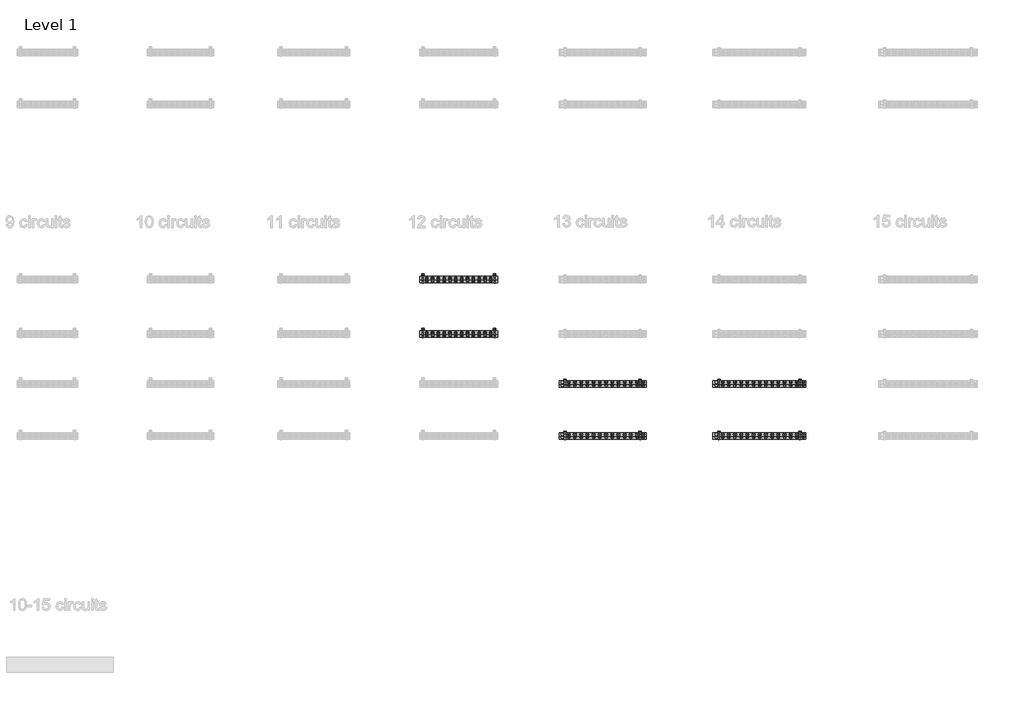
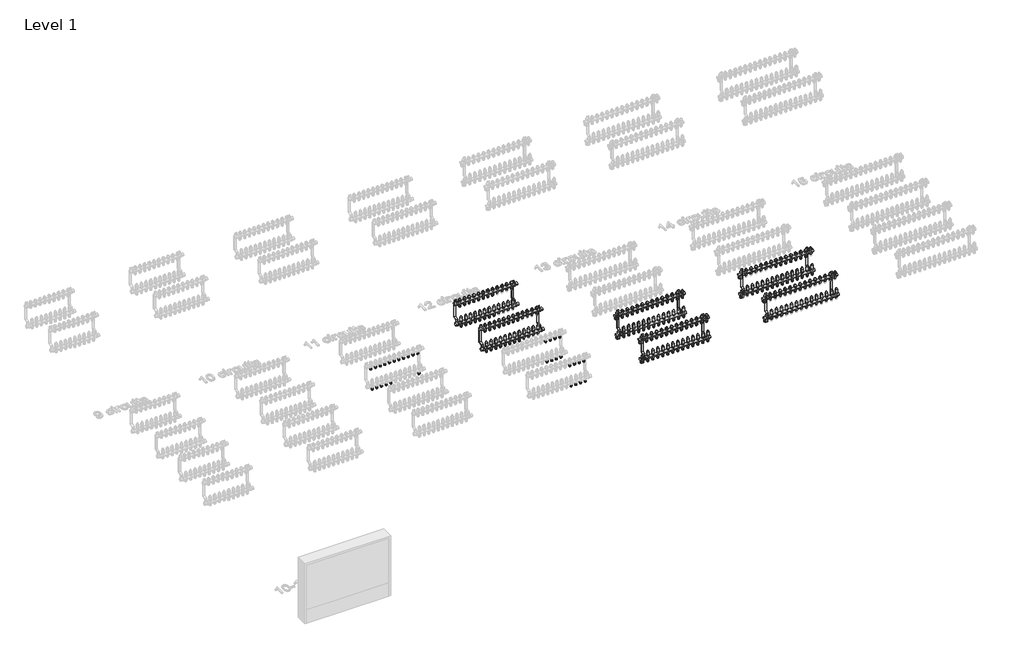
# One storey, part 5 of 23: 137 pipe fittings, 6 valves.
"""IFC4 building model written with IfcOpenShell, lengths in millimetres."""

from ifc_helpers import new_model, si_unit, origin, place, context, project, spatial, transform, mapped, element, save
from components import pipe_fitting_03c6499f, valve_28fdf4a6, valve_a7423dcf, valve_d379a65c, valve_24eee51e, valve_cb73cf64, valve_9b29a5eb, valve_b9f81a7f, valve_96d576d6, valve_5ad404c9, valve_4cbf1be7, valve_3248c627, valve_ecf45875

model = new_model("IFC4")

# Units and contexts
model_context = context("Model", 3, world=origin())
ifc_project = project(units=[si_unit("LENGTHUNIT", "METRE", prefix="MILLI")], contexts=[model_context])

# Site, building, storey
site = spatial("IfcSite", under=ifc_project)
building = spatial("IfcBuilding", under=site)
storey = spatial("IfcBuildingStorey", under=building, Name="Level 1", Elevation=0.0)

# Pipe fittings
placement = place(None, origin())
pipe_fitting_shape = pipe_fitting_03c6499f(model_context)
element("IfcPipeFitting", 1, ObjectType="Euroconus screwing for multilayer pipes - Manifold FT : Euroconus screwing for multilayer pipes - Manifold FT", at=placement, inside=storey, context=model_context, shape_type="MappedRepresentation", body=[
    mapped(pipe_fitting_shape, transform((11977.8887771, -1164.6959314, 62.88733), x_axis=(0.0, 0.0, -1.0), y_axis=(0.0, 1.0000000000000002, 0.0), z_axis=(1.0000000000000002, 0.0, 0.0))),
])
element("IfcPipeFitting", 2, ObjectType="Euroconus screwing for multilayer pipes - Manifold FT : Euroconus screwing for multilayer pipes - Manifold FT", at=placement, inside=storey, context=model_context, shape_type="MappedRepresentation", body=[
    mapped(pipe_fitting_shape, transform((11928.6160498, -1164.6959314, 62.88733), x_axis=(0.0, 0.0, -1.0), y_axis=(0.0, 1.0000000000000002, 0.0), z_axis=(1.0000000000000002, 0.0, 0.0))),
])
element("IfcPipeFitting", 3, ObjectType="Euroconus screwing for multilayer pipes - Manifold FT : Euroconus screwing for multilayer pipes - Manifold FT", at=placement, inside=storey, context=model_context, shape_type="MappedRepresentation", body=[
    mapped(pipe_fitting_shape, transform((11879.3433225, -1164.6959314, 62.88733), x_axis=(0.0, 0.0, -1.0), y_axis=(0.0, 1.0000000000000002, 0.0), z_axis=(1.0000000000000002, 0.0, 0.0))),
])
element("IfcPipeFitting", 4, ObjectType="Euroconus screwing for multilayer pipes - Manifold FT : Euroconus screwing for multilayer pipes - Manifold FT", at=placement, inside=storey, context=model_context, shape_type="MappedRepresentation", body=[
    mapped(pipe_fitting_shape, transform((11830.0705953, -1164.6959314, 62.88733), x_axis=(0.0, 0.0, -1.0), y_axis=(0.0, 1.0000000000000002, 0.0), z_axis=(1.0000000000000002, 0.0, 0.0))),
])
element("IfcPipeFitting", 5, ObjectType="Euroconus screwing for multilayer pipes - Manifold FT : Euroconus screwing for multilayer pipes - Manifold FT", at=placement, inside=storey, context=model_context, shape_type="MappedRepresentation", body=[
    mapped(pipe_fitting_shape, transform((11780.797868, -1164.6959314, 62.88733), x_axis=(0.0, 0.0, -1.0), y_axis=(0.0, 1.0000000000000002, 0.0), z_axis=(1.0000000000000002, 0.0, 0.0))),
])
element("IfcPipeFitting", 6, ObjectType="Euroconus screwing for multilayer pipes - Manifold FT : Euroconus screwing for multilayer pipes - Manifold FT", at=placement, inside=storey, context=model_context, shape_type="MappedRepresentation", body=[
    mapped(pipe_fitting_shape, transform((11731.5251407, -1164.6959314, 62.88733), x_axis=(0.0, 0.0, -1.0), y_axis=(0.0, 1.0000000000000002, 0.0), z_axis=(1.0000000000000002, 0.0, 0.0))),
])
element("IfcPipeFitting", 7, ObjectType="Euroconus screwing for multilayer pipes - Manifold FT : Euroconus screwing for multilayer pipes - Manifold FT", at=placement, inside=storey, context=model_context, shape_type="MappedRepresentation", body=[
    mapped(pipe_fitting_shape, transform((11682.2524134, -1164.6959314, 62.88733), x_axis=(0.0, 0.0, -1.0), y_axis=(0.0, 1.0000000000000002, 0.0), z_axis=(1.0000000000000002, 0.0, 0.0))),
])
element("IfcPipeFitting", 8, ObjectType="Euroconus screwing for multilayer pipes - Manifold FT : Euroconus screwing for multilayer pipes - Manifold FT", at=placement, inside=storey, context=model_context, shape_type="MappedRepresentation", body=[
    mapped(pipe_fitting_shape, transform((11977.8887771, -1139.6959314, 272.88733), x_axis=(0.0, 0.0, -1.0), y_axis=(0.0, 1.0000000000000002, 0.0), z_axis=(1.0000000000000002, 0.0, 0.0))),
])
element("IfcPipeFitting", 9, ObjectType="Euroconus screwing for multilayer pipes - Manifold FT : Euroconus screwing for multilayer pipes - Manifold FT", at=placement, inside=storey, context=model_context, shape_type="MappedRepresentation", body=[
    mapped(pipe_fitting_shape, transform((11928.6160498, -1139.6959314, 272.88733), x_axis=(0.0, 0.0, -1.0), y_axis=(0.0, 1.0000000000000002, 0.0), z_axis=(1.0000000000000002, 0.0, 0.0))),
])
element("IfcPipeFitting", 10, ObjectType="Euroconus screwing for multilayer pipes - Manifold FT : Euroconus screwing for multilayer pipes - Manifold FT", at=placement, inside=storey, context=model_context, shape_type="MappedRepresentation", body=[
    mapped(pipe_fitting_shape, transform((11879.3433225, -1139.6959314, 272.88733), x_axis=(0.0, 0.0, -1.0), y_axis=(0.0, 1.0000000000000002, 0.0), z_axis=(1.0000000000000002, 0.0, 0.0))),
])
element("IfcPipeFitting", 11, ObjectType="Euroconus screwing for multilayer pipes - Manifold FT : Euroconus screwing for multilayer pipes - Manifold FT", at=placement, inside=storey, context=model_context, shape_type="MappedRepresentation", body=[
    mapped(pipe_fitting_shape, transform((11830.0705953, -1139.6959314, 272.88733), x_axis=(0.0, 0.0, -1.0), y_axis=(0.0, 1.0000000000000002, 0.0), z_axis=(1.0000000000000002, 0.0, 0.0))),
])
element("IfcPipeFitting", 12, ObjectType="Euroconus screwing for multilayer pipes - Manifold FT : Euroconus screwing for multilayer pipes - Manifold FT", at=placement, inside=storey, context=model_context, shape_type="MappedRepresentation", body=[
    mapped(pipe_fitting_shape, transform((11780.797868, -1139.6959314, 272.88733), x_axis=(0.0, 0.0, -1.0), y_axis=(0.0, 1.0000000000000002, 0.0), z_axis=(1.0000000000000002, 0.0, 0.0))),
])
element("IfcPipeFitting", 13, ObjectType="Euroconus screwing for multilayer pipes - Manifold FT : Euroconus screwing for multilayer pipes - Manifold FT", at=placement, inside=storey, context=model_context, shape_type="MappedRepresentation", body=[
    mapped(pipe_fitting_shape, transform((11731.5251407, -1139.6959314, 272.88733), x_axis=(0.0, 0.0, -1.0), y_axis=(0.0, 1.0000000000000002, 0.0), z_axis=(1.0000000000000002, 0.0, 0.0))),
])
element("IfcPipeFitting", 14, ObjectType="Euroconus screwing for multilayer pipes - Manifold FT : Euroconus screwing for multilayer pipes - Manifold FT", at=placement, inside=storey, context=model_context, shape_type="MappedRepresentation", body=[
    mapped(pipe_fitting_shape, transform((11682.2524134, -1139.6959314, 272.88733), x_axis=(0.0, 0.0, -1.0), y_axis=(0.0, 1.0000000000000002, 0.0), z_axis=(1.0000000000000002, 0.0, 0.0))),
])
element("IfcPipeFitting", 15, ObjectType="Euroconus screwing for multilayer pipes - Manifold FT : Euroconus screwing for multilayer pipes - Manifold FT", at=placement, inside=storey, context=model_context, shape_type="MappedRepresentation", body=[
    mapped(pipe_fitting_shape, transform((11632.9796862, -1164.6959314, 62.88733), x_axis=(0.0, 0.0, -1.0), y_axis=(0.0, 1.0000000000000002, 0.0), z_axis=(1.0000000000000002, 0.0, 0.0))),
])
element("IfcPipeFitting", 16, ObjectType="Euroconus screwing for multilayer pipes - Manifold FT : Euroconus screwing for multilayer pipes - Manifold FT", at=placement, inside=storey, context=model_context, shape_type="MappedRepresentation", body=[
    mapped(pipe_fitting_shape, transform((11632.9796862, -1139.6959314, 272.88733), x_axis=(0.0, 0.0, -1.0), y_axis=(0.0, 1.0000000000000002, 0.0), z_axis=(1.0000000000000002, 0.0, 0.0))),
])
element("IfcPipeFitting", 17, ObjectType="Euroconus screwing for multilayer pipes - Manifold FT : Euroconus screwing for multilayer pipes - Manifold FT", at=placement, inside=storey, context=model_context, shape_type="MappedRepresentation", body=[
    mapped(pipe_fitting_shape, transform((10629.7796862, -1624.6959314, 62.88733), x_axis=(0.0, 0.0, -1.0), y_axis=(0.0, 1.0000000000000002, 0.0), z_axis=(1.0000000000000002, 0.0, 0.0))),
])
element("IfcPipeFitting", 18, ObjectType="Euroconus screwing for multilayer pipes - Manifold FT : Euroconus screwing for multilayer pipes - Manifold FT", at=placement, inside=storey, context=model_context, shape_type="MappedRepresentation", body=[
    mapped(pipe_fitting_shape, transform((10580.5796862, -1624.6959314, 62.88733), x_axis=(0.0, 0.0, -1.0), y_axis=(0.0, 1.0000000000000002, 0.0), z_axis=(1.0000000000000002, 0.0, 0.0))),
])
element("IfcPipeFitting", 19, ObjectType="Euroconus screwing for multilayer pipes - Manifold FT : Euroconus screwing for multilayer pipes - Manifold FT", at=placement, inside=storey, context=model_context, shape_type="MappedRepresentation", body=[
    mapped(pipe_fitting_shape, transform((10531.3796862, -1624.6959314, 62.88733), x_axis=(0.0, 0.0, -1.0), y_axis=(0.0, 1.0000000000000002, 0.0), z_axis=(1.0000000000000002, 0.0, 0.0))),
])
element("IfcPipeFitting", 20, ObjectType="Euroconus screwing for multilayer pipes - Manifold FT : Euroconus screwing for multilayer pipes - Manifold FT", at=placement, inside=storey, context=model_context, shape_type="MappedRepresentation", body=[
    mapped(pipe_fitting_shape, transform((10482.1796862, -1624.6959314, 62.88733), x_axis=(0.0, 0.0, -1.0), y_axis=(0.0, 1.0000000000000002, 0.0), z_axis=(1.0000000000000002, 0.0, 0.0))),
])
element("IfcPipeFitting", 21, ObjectType="Euroconus screwing for multilayer pipes - Manifold FT : Euroconus screwing for multilayer pipes - Manifold FT", at=placement, inside=storey, context=model_context, shape_type="MappedRepresentation", body=[
    mapped(pipe_fitting_shape, transform((10924.9796862, -1624.6959314, 62.88733), x_axis=(0.0, 0.0, -1.0), y_axis=(0.0, 1.0000000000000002, 0.0), z_axis=(1.0000000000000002, 0.0, 0.0))),
])
element("IfcPipeFitting", 22, ObjectType="Euroconus screwing for multilayer pipes - Manifold FT : Euroconus screwing for multilayer pipes - Manifold FT", at=placement, inside=storey, context=model_context, shape_type="MappedRepresentation", body=[
    mapped(pipe_fitting_shape, transform((10875.7796862, -1599.6959314, 272.88733), x_axis=(0.0, 0.0, -1.0), y_axis=(0.0, 1.0000000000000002, 0.0), z_axis=(1.0000000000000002, 0.0, 0.0))),
])
element("IfcPipeFitting", 23, ObjectType="Euroconus screwing for multilayer pipes - Manifold FT : Euroconus screwing for multilayer pipes - Manifold FT", at=placement, inside=storey, context=model_context, shape_type="MappedRepresentation", body=[
    mapped(pipe_fitting_shape, transform((10826.5796862, -1599.6959314, 272.88733), x_axis=(0.0, 0.0, -1.0), y_axis=(0.0, 1.0000000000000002, 0.0), z_axis=(1.0000000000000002, 0.0, 0.0))),
])
element("IfcPipeFitting", 24, ObjectType="Euroconus screwing for multilayer pipes - Manifold FT : Euroconus screwing for multilayer pipes - Manifold FT", at=placement, inside=storey, context=model_context, shape_type="MappedRepresentation", body=[
    mapped(pipe_fitting_shape, transform((10777.3796862, -1599.6959314, 272.88733), x_axis=(0.0, 0.0, -1.0), y_axis=(0.0, 1.0000000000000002, 0.0), z_axis=(1.0000000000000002, 0.0, 0.0))),
])
element("IfcPipeFitting", 25, ObjectType="Euroconus screwing for multilayer pipes - Manifold FT : Euroconus screwing for multilayer pipes - Manifold FT", at=placement, inside=storey, context=model_context, shape_type="MappedRepresentation", body=[
    mapped(pipe_fitting_shape, transform((10728.1796862, -1599.6959314, 272.88733), x_axis=(0.0, 0.0, -1.0), y_axis=(0.0, 1.0000000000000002, 0.0), z_axis=(1.0000000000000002, 0.0, 0.0))),
])
element("IfcPipeFitting", 26, ObjectType="Euroconus screwing for multilayer pipes - Manifold FT : Euroconus screwing for multilayer pipes - Manifold FT", at=placement, inside=storey, context=model_context, shape_type="MappedRepresentation", body=[
    mapped(pipe_fitting_shape, transform((10678.9796862, -1599.6959314, 272.88733), x_axis=(0.0, 0.0, -1.0), y_axis=(0.0, 1.0000000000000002, 0.0), z_axis=(1.0000000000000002, 0.0, 0.0))),
])
element("IfcPipeFitting", 27, ObjectType="Euroconus screwing for multilayer pipes - Manifold FT : Euroconus screwing for multilayer pipes - Manifold FT", at=placement, inside=storey, context=model_context, shape_type="MappedRepresentation", body=[
    mapped(pipe_fitting_shape, transform((10629.7796862, -1599.6959314, 272.88733), x_axis=(0.0, 0.0, -1.0), y_axis=(0.0, 1.0000000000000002, 0.0), z_axis=(1.0000000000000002, 0.0, 0.0))),
])
element("IfcPipeFitting", 28, ObjectType="Euroconus screwing for multilayer pipes - Manifold FT : Euroconus screwing for multilayer pipes - Manifold FT", at=placement, inside=storey, context=model_context, shape_type="MappedRepresentation", body=[
    mapped(pipe_fitting_shape, transform((10580.5796862, -1599.6959314, 272.88733), x_axis=(0.0, 0.0, -1.0), y_axis=(0.0, 1.0000000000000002, 0.0), z_axis=(1.0000000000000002, 0.0, 0.0))),
])
element("IfcPipeFitting", 29, ObjectType="Euroconus screwing for multilayer pipes - Manifold FT : Euroconus screwing for multilayer pipes - Manifold FT", at=placement, inside=storey, context=model_context, shape_type="MappedRepresentation", body=[
    mapped(pipe_fitting_shape, transform((10531.3796862, -1599.6959314, 272.88733), x_axis=(0.0, 0.0, -1.0), y_axis=(0.0, 1.0000000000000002, 0.0), z_axis=(1.0000000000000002, 0.0, 0.0))),
])
element("IfcPipeFitting", 30, ObjectType="Euroconus screwing for multilayer pipes - Manifold FT : Euroconus screwing for multilayer pipes - Manifold FT", at=placement, inside=storey, context=model_context, shape_type="MappedRepresentation", body=[
    mapped(pipe_fitting_shape, transform((10482.1796862, -1599.6959314, 272.88733), x_axis=(0.0, 0.0, -1.0), y_axis=(0.0, 1.0000000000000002, 0.0), z_axis=(1.0000000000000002, 0.0, 0.0))),
])
element("IfcPipeFitting", 31, ObjectType="Euroconus screwing for multilayer pipes - Manifold FT : Euroconus screwing for multilayer pipes - Manifold FT", at=placement, inside=storey, context=model_context, shape_type="MappedRepresentation", body=[
    mapped(pipe_fitting_shape, transform((10924.9796862, -1599.6959314, 272.88733), x_axis=(0.0, 0.0, -1.0), y_axis=(0.0, 1.0000000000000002, 0.0), z_axis=(1.0000000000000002, 0.0, 0.0))),
])
element("IfcPipeFitting", 32, ObjectType="Euroconus screwing for multilayer pipes - Manifold FT : Euroconus screwing for multilayer pipes - Manifold FT", at=placement, inside=storey, context=model_context, shape_type="MappedRepresentation", body=[
    mapped(pipe_fitting_shape, transform((10432.9796862, -1624.6959314, 62.88733), x_axis=(0.0, 0.0, -1.0), y_axis=(0.0, 1.0000000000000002, 0.0), z_axis=(1.0000000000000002, 0.0, 0.0))),
])
element("IfcPipeFitting", 33, ObjectType="Euroconus screwing for multilayer pipes - Manifold FT : Euroconus screwing for multilayer pipes - Manifold FT", at=placement, inside=storey, context=model_context, shape_type="MappedRepresentation", body=[
    mapped(pipe_fitting_shape, transform((10432.9796862, -1599.6959314, 272.88733), x_axis=(0.0, 0.0, -1.0), y_axis=(0.0, 1.0000000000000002, 0.0), z_axis=(1.0000000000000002, 0.0, 0.0))),
])
element("IfcPipeFitting", 34, ObjectType="Euroconus screwing for multilayer pipes - Manifold FT : Euroconus screwing for multilayer pipes - Manifold FT", at=placement, inside=storey, context=model_context, shape_type="MappedRepresentation", body=[
    mapped(pipe_fitting_shape, transform((11977.8887771, -1624.6959314, 62.88733), x_axis=(0.0, 0.0, -1.0), y_axis=(0.0, 1.0000000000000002, 0.0), z_axis=(1.0000000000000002, 0.0, 0.0))),
])
element("IfcPipeFitting", 35, ObjectType="Euroconus screwing for multilayer pipes - Manifold FT : Euroconus screwing for multilayer pipes - Manifold FT", at=placement, inside=storey, context=model_context, shape_type="MappedRepresentation", body=[
    mapped(pipe_fitting_shape, transform((11928.6160498, -1624.6959314, 62.88733), x_axis=(0.0, 0.0, -1.0), y_axis=(0.0, 1.0000000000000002, 0.0), z_axis=(1.0000000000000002, 0.0, 0.0))),
])
element("IfcPipeFitting", 36, ObjectType="Euroconus screwing for multilayer pipes - Manifold FT : Euroconus screwing for multilayer pipes - Manifold FT", at=placement, inside=storey, context=model_context, shape_type="MappedRepresentation", body=[
    mapped(pipe_fitting_shape, transform((11879.3433225, -1624.6959314, 62.88733), x_axis=(0.0, 0.0, -1.0), y_axis=(0.0, 1.0000000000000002, 0.0), z_axis=(1.0000000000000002, 0.0, 0.0))),
])
element("IfcPipeFitting", 37, ObjectType="Euroconus screwing for multilayer pipes - Manifold FT : Euroconus screwing for multilayer pipes - Manifold FT", at=placement, inside=storey, context=model_context, shape_type="MappedRepresentation", body=[
    mapped(pipe_fitting_shape, transform((11830.0705953, -1624.6959314, 62.88733), x_axis=(0.0, 0.0, -1.0), y_axis=(0.0, 1.0000000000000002, 0.0), z_axis=(1.0000000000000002, 0.0, 0.0))),
])
element("IfcPipeFitting", 38, ObjectType="Euroconus screwing for multilayer pipes - Manifold FT : Euroconus screwing for multilayer pipes - Manifold FT", at=placement, inside=storey, context=model_context, shape_type="MappedRepresentation", body=[
    mapped(pipe_fitting_shape, transform((11780.797868, -1624.6959314, 62.88733), x_axis=(0.0, 0.0, -1.0), y_axis=(0.0, 1.0000000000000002, 0.0), z_axis=(1.0000000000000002, 0.0, 0.0))),
])
element("IfcPipeFitting", 39, ObjectType="Euroconus screwing for multilayer pipes - Manifold FT : Euroconus screwing for multilayer pipes - Manifold FT", at=placement, inside=storey, context=model_context, shape_type="MappedRepresentation", body=[
    mapped(pipe_fitting_shape, transform((11731.5251407, -1624.6959314, 62.88733), x_axis=(0.0, 0.0, -1.0), y_axis=(0.0, 1.0000000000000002, 0.0), z_axis=(1.0000000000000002, 0.0, 0.0))),
])
element("IfcPipeFitting", 40, ObjectType="Euroconus screwing for multilayer pipes - Manifold FT : Euroconus screwing for multilayer pipes - Manifold FT", at=placement, inside=storey, context=model_context, shape_type="MappedRepresentation", body=[
    mapped(pipe_fitting_shape, transform((11682.2524134, -1624.6959314, 62.88733), x_axis=(0.0, 0.0, -1.0), y_axis=(0.0, 1.0000000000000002, 0.0), z_axis=(1.0000000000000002, 0.0, 0.0))),
])
element("IfcPipeFitting", 41, ObjectType="Euroconus screwing for multilayer pipes - Manifold FT : Euroconus screwing for multilayer pipes - Manifold FT", at=placement, inside=storey, context=model_context, shape_type="MappedRepresentation", body=[
    mapped(pipe_fitting_shape, transform((11977.8887771, -1599.6959314, 272.88733), x_axis=(0.0, 0.0, -1.0), y_axis=(0.0, 1.0000000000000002, 0.0), z_axis=(1.0000000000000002, 0.0, 0.0))),
])
element("IfcPipeFitting", 42, ObjectType="Euroconus screwing for multilayer pipes - Manifold FT : Euroconus screwing for multilayer pipes - Manifold FT", at=placement, inside=storey, context=model_context, shape_type="MappedRepresentation", body=[
    mapped(pipe_fitting_shape, transform((11928.6160498, -1599.6959314, 272.88733), x_axis=(0.0, 0.0, -1.0), y_axis=(0.0, 1.0000000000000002, 0.0), z_axis=(1.0000000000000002, 0.0, 0.0))),
])
element("IfcPipeFitting", 43, ObjectType="Euroconus screwing for multilayer pipes - Manifold FT : Euroconus screwing for multilayer pipes - Manifold FT", at=placement, inside=storey, context=model_context, shape_type="MappedRepresentation", body=[
    mapped(pipe_fitting_shape, transform((11879.3433225, -1599.6959314, 272.88733), x_axis=(0.0, 0.0, -1.0), y_axis=(0.0, 1.0000000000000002, 0.0), z_axis=(1.0000000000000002, 0.0, 0.0))),
])
element("IfcPipeFitting", 44, ObjectType="Euroconus screwing for multilayer pipes - Manifold FT : Euroconus screwing for multilayer pipes - Manifold FT", at=placement, inside=storey, context=model_context, shape_type="MappedRepresentation", body=[
    mapped(pipe_fitting_shape, transform((11830.0705953, -1599.6959314, 272.88733), x_axis=(0.0, 0.0, -1.0), y_axis=(0.0, 1.0000000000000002, 0.0), z_axis=(1.0000000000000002, 0.0, 0.0))),
])
element("IfcPipeFitting", 45, ObjectType="Euroconus screwing for multilayer pipes - Manifold FT : Euroconus screwing for multilayer pipes - Manifold FT", at=placement, inside=storey, context=model_context, shape_type="MappedRepresentation", body=[
    mapped(pipe_fitting_shape, transform((11780.797868, -1599.6959314, 272.88733), x_axis=(0.0, 0.0, -1.0), y_axis=(0.0, 1.0000000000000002, 0.0), z_axis=(1.0000000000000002, 0.0, 0.0))),
])
element("IfcPipeFitting", 46, ObjectType="Euroconus screwing for multilayer pipes - Manifold FT : Euroconus screwing for multilayer pipes - Manifold FT", at=placement, inside=storey, context=model_context, shape_type="MappedRepresentation", body=[
    mapped(pipe_fitting_shape, transform((11731.5251407, -1599.6959314, 272.88733), x_axis=(0.0, 0.0, -1.0), y_axis=(0.0, 1.0000000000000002, 0.0), z_axis=(1.0000000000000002, 0.0, 0.0))),
])
element("IfcPipeFitting", 47, ObjectType="Euroconus screwing for multilayer pipes - Manifold FT : Euroconus screwing for multilayer pipes - Manifold FT", at=placement, inside=storey, context=model_context, shape_type="MappedRepresentation", body=[
    mapped(pipe_fitting_shape, transform((11682.2524134, -1599.6959314, 272.88733), x_axis=(0.0, 0.0, -1.0), y_axis=(0.0, 1.0000000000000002, 0.0), z_axis=(1.0000000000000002, 0.0, 0.0))),
])
element("IfcPipeFitting", 48, ObjectType="Euroconus screwing for multilayer pipes - Manifold FT : Euroconus screwing for multilayer pipes - Manifold FT", at=placement, inside=storey, context=model_context, shape_type="MappedRepresentation", body=[
    mapped(pipe_fitting_shape, transform((11632.9796862, -1624.6959314, 62.88733), x_axis=(0.0, 0.0, -1.0), y_axis=(0.0, 1.0000000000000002, 0.0), z_axis=(1.0000000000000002, 0.0, 0.0))),
])
element("IfcPipeFitting", 49, ObjectType="Euroconus screwing for multilayer pipes - Manifold FT : Euroconus screwing for multilayer pipes - Manifold FT", at=placement, inside=storey, context=model_context, shape_type="MappedRepresentation", body=[
    mapped(pipe_fitting_shape, transform((11632.9796862, -1599.6959314, 272.88733), x_axis=(0.0, 0.0, -1.0), y_axis=(0.0, 1.0000000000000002, 0.0), z_axis=(1.0000000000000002, 0.0, 0.0))),
])
element("IfcPipeFitting", 50, ObjectType="Euroconus screwing for multilayer pipes - Manifold FT : Euroconus screwing for multilayer pipes - Manifold FT", at=placement, inside=storey, context=model_context, shape_type="MappedRepresentation", body=[
    mapped(pipe_fitting_shape, transform((12125.7069589, -2044.6959314, 62.88733), x_axis=(0.0, 0.0, -1.0), y_axis=(0.0, 1.0000000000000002, 0.0), z_axis=(1.0000000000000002, 0.0, 0.0))),
])
element("IfcPipeFitting", 51, ObjectType="Euroconus screwing for multilayer pipes - Manifold FT : Euroconus screwing for multilayer pipes - Manifold FT", at=placement, inside=storey, context=model_context, shape_type="MappedRepresentation", body=[
    mapped(pipe_fitting_shape, transform((12076.4342316, -2044.6959314, 62.88733), x_axis=(0.0, 0.0, -1.0), y_axis=(0.0, 1.0000000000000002, 0.0), z_axis=(1.0000000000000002, 0.0, 0.0))),
])
element("IfcPipeFitting", 52, ObjectType="Euroconus screwing for multilayer pipes - Manifold FT : Euroconus screwing for multilayer pipes - Manifold FT", at=placement, inside=storey, context=model_context, shape_type="MappedRepresentation", body=[
    mapped(pipe_fitting_shape, transform((12027.1615043, -2044.6959314, 62.88733), x_axis=(0.0, 0.0, -1.0), y_axis=(0.0, 1.0000000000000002, 0.0), z_axis=(1.0000000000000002, 0.0, 0.0))),
])
element("IfcPipeFitting", 53, ObjectType="Euroconus screwing for multilayer pipes - Manifold FT : Euroconus screwing for multilayer pipes - Manifold FT", at=placement, inside=storey, context=model_context, shape_type="MappedRepresentation", body=[
    mapped(pipe_fitting_shape, transform((12174.9796862, -2044.6959314, 62.88733), x_axis=(0.0, 0.0, -1.0), y_axis=(0.0, 1.0000000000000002, 0.0), z_axis=(1.0000000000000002, 0.0, 0.0))),
])
element("IfcPipeFitting", 54, ObjectType="Euroconus screwing for multilayer pipes - Manifold FT : Euroconus screwing for multilayer pipes - Manifold FT", at=placement, inside=storey, context=model_context, shape_type="MappedRepresentation", body=[
    mapped(pipe_fitting_shape, transform((12125.7069589, -2019.6959314, 272.88733), x_axis=(0.0, 0.0, -1.0), y_axis=(0.0, 1.0000000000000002, 0.0), z_axis=(1.0000000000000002, 0.0, 0.0))),
])
element("IfcPipeFitting", 55, ObjectType="Euroconus screwing for multilayer pipes - Manifold FT : Euroconus screwing for multilayer pipes - Manifold FT", at=placement, inside=storey, context=model_context, shape_type="MappedRepresentation", body=[
    mapped(pipe_fitting_shape, transform((12076.4342316, -2019.6959314, 272.88733), x_axis=(0.0, 0.0, -1.0), y_axis=(0.0, 1.0000000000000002, 0.0), z_axis=(1.0000000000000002, 0.0, 0.0))),
])
element("IfcPipeFitting", 56, ObjectType="Euroconus screwing for multilayer pipes - Manifold FT : Euroconus screwing for multilayer pipes - Manifold FT", at=placement, inside=storey, context=model_context, shape_type="MappedRepresentation", body=[
    mapped(pipe_fitting_shape, transform((12027.1615043, -2019.6959314, 272.88733), x_axis=(0.0, 0.0, -1.0), y_axis=(0.0, 1.0000000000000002, 0.0), z_axis=(1.0000000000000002, 0.0, 0.0))),
])
element("IfcPipeFitting", 57, ObjectType="Euroconus screwing for multilayer pipes - Manifold FT : Euroconus screwing for multilayer pipes - Manifold FT", at=placement, inside=storey, context=model_context, shape_type="MappedRepresentation", body=[
    mapped(pipe_fitting_shape, transform((12174.9796862, -2019.6959314, 272.88733), x_axis=(0.0, 0.0, -1.0), y_axis=(0.0, 1.0000000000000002, 0.0), z_axis=(1.0000000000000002, 0.0, 0.0))),
])
element("IfcPipeFitting", 58, ObjectType="Euroconus screwing for multilayer pipes - Manifold FT : Euroconus screwing for multilayer pipes - Manifold FT", at=placement, inside=storey, context=model_context, shape_type="MappedRepresentation", body=[
    mapped(pipe_fitting_shape, transform((13410.4796862, -2044.6959314, 62.88733), x_axis=(0.0, 0.0, -1.0), y_axis=(0.0, 1.0000000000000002, 0.0), z_axis=(1.0000000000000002, 0.0, 0.0))),
])
element("IfcPipeFitting", 59, ObjectType="Euroconus screwing for multilayer pipes - Manifold FT : Euroconus screwing for multilayer pipes - Manifold FT", at=placement, inside=storey, context=model_context, shape_type="MappedRepresentation", body=[
    mapped(pipe_fitting_shape, transform((13357.9796862, -2044.6959314, 62.88733), x_axis=(0.0, 0.0, -1.0), y_axis=(0.0, 1.0000000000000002, 0.0), z_axis=(1.0000000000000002, 0.0, 0.0))),
])
element("IfcPipeFitting", 60, ObjectType="Euroconus screwing for multilayer pipes - Manifold FT : Euroconus screwing for multilayer pipes - Manifold FT", at=placement, inside=storey, context=model_context, shape_type="MappedRepresentation", body=[
    mapped(pipe_fitting_shape, transform((13305.4796862, -2044.6959314, 62.88733), x_axis=(0.0, 0.0, -1.0), y_axis=(0.0, 1.0000000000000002, 0.0), z_axis=(1.0000000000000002, 0.0, 0.0))),
])
element("IfcPipeFitting", 61, ObjectType="Euroconus screwing for multilayer pipes - Manifold FT : Euroconus screwing for multilayer pipes - Manifold FT", at=placement, inside=storey, context=model_context, shape_type="MappedRepresentation", body=[
    mapped(pipe_fitting_shape, transform((13252.9796862, -2044.6959314, 62.88733), x_axis=(0.0, 0.0, -1.0), y_axis=(0.0, 1.0000000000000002, 0.0), z_axis=(1.0000000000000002, 0.0, 0.0))),
])
element("IfcPipeFitting", 62, ObjectType="Euroconus screwing for multilayer pipes - Manifold FT : Euroconus screwing for multilayer pipes - Manifold FT", at=placement, inside=storey, context=model_context, shape_type="MappedRepresentation", body=[
    mapped(pipe_fitting_shape, transform((13200.4796862, -2044.6959314, 62.88733), x_axis=(0.0, 0.0, -1.0), y_axis=(0.0, 1.0000000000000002, 0.0), z_axis=(1.0000000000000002, 0.0, 0.0))),
])
element("IfcPipeFitting", 63, ObjectType="Euroconus screwing for multilayer pipes - Manifold FT : Euroconus screwing for multilayer pipes - Manifold FT", at=placement, inside=storey, context=model_context, shape_type="MappedRepresentation", body=[
    mapped(pipe_fitting_shape, transform((13147.9796862, -2044.6959314, 62.88733), x_axis=(0.0, 0.0, -1.0), y_axis=(0.0, 1.0000000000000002, 0.0), z_axis=(1.0000000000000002, 0.0, 0.0))),
])
element("IfcPipeFitting", 64, ObjectType="Euroconus screwing for multilayer pipes - Manifold FT : Euroconus screwing for multilayer pipes - Manifold FT", at=placement, inside=storey, context=model_context, shape_type="MappedRepresentation", body=[
    mapped(pipe_fitting_shape, transform((13095.4796862, -2044.6959314, 62.88733), x_axis=(0.0, 0.0, -1.0), y_axis=(0.0, 1.0000000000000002, 0.0), z_axis=(1.0000000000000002, 0.0, 0.0))),
])
element("IfcPipeFitting", 65, ObjectType="Euroconus screwing for multilayer pipes - Manifold FT : Euroconus screwing for multilayer pipes - Manifold FT", at=placement, inside=storey, context=model_context, shape_type="MappedRepresentation", body=[
    mapped(pipe_fitting_shape, transform((13042.9796862, -2044.6959314, 62.88733), x_axis=(0.0, 0.0, -1.0), y_axis=(0.0, 1.0000000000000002, 0.0), z_axis=(1.0000000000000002, 0.0, 0.0))),
])
element("IfcPipeFitting", 66, ObjectType="Euroconus screwing for multilayer pipes - Manifold FT : Euroconus screwing for multilayer pipes - Manifold FT", at=placement, inside=storey, context=model_context, shape_type="MappedRepresentation", body=[
    mapped(pipe_fitting_shape, transform((12990.4796862, -2044.6959314, 62.88733), x_axis=(0.0, 0.0, -1.0), y_axis=(0.0, 1.0000000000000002, 0.0), z_axis=(1.0000000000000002, 0.0, 0.0))),
])
element("IfcPipeFitting", 67, ObjectType="Euroconus screwing for multilayer pipes - Manifold FT : Euroconus screwing for multilayer pipes - Manifold FT", at=placement, inside=storey, context=model_context, shape_type="MappedRepresentation", body=[
    mapped(pipe_fitting_shape, transform((12937.9796862, -2044.6959314, 62.88733), x_axis=(0.0, 0.0, -1.0), y_axis=(0.0, 1.0000000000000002, 0.0), z_axis=(1.0000000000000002, 0.0, 0.0))),
])
element("IfcPipeFitting", 68, ObjectType="Euroconus screwing for multilayer pipes - Manifold FT : Euroconus screwing for multilayer pipes - Manifold FT", at=placement, inside=storey, context=model_context, shape_type="MappedRepresentation", body=[
    mapped(pipe_fitting_shape, transform((12885.4796862, -2044.6959314, 62.88733), x_axis=(0.0, 0.0, -1.0), y_axis=(0.0, 1.0000000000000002, 0.0), z_axis=(1.0000000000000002, 0.0, 0.0))),
])
element("IfcPipeFitting", 69, ObjectType="Euroconus screwing for multilayer pipes - Manifold FT : Euroconus screwing for multilayer pipes - Manifold FT", at=placement, inside=storey, context=model_context, shape_type="MappedRepresentation", body=[
    mapped(pipe_fitting_shape, transform((13462.9796862, -2044.6959314, 62.88733), x_axis=(0.0, 0.0, -1.0), y_axis=(0.0, 1.0000000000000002, 0.0), z_axis=(1.0000000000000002, 0.0, 0.0))),
])
element("IfcPipeFitting", 70, ObjectType="Euroconus screwing for multilayer pipes - Manifold FT : Euroconus screwing for multilayer pipes - Manifold FT", at=placement, inside=storey, context=model_context, shape_type="MappedRepresentation", body=[
    mapped(pipe_fitting_shape, transform((13410.4796862, -2019.6959314, 262.88733), x_axis=(0.0, 0.0, -1.0), y_axis=(0.0, 1.0000000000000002, 0.0), z_axis=(1.0000000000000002, 0.0, 0.0))),
])
element("IfcPipeFitting", 71, ObjectType="Euroconus screwing for multilayer pipes - Manifold FT : Euroconus screwing for multilayer pipes - Manifold FT", at=placement, inside=storey, context=model_context, shape_type="MappedRepresentation", body=[
    mapped(pipe_fitting_shape, transform((13357.9796862, -2019.6959314, 262.88733), x_axis=(0.0, 0.0, -1.0), y_axis=(0.0, 1.0000000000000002, 0.0), z_axis=(1.0000000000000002, 0.0, 0.0))),
])
element("IfcPipeFitting", 72, ObjectType="Euroconus screwing for multilayer pipes - Manifold FT : Euroconus screwing for multilayer pipes - Manifold FT", at=placement, inside=storey, context=model_context, shape_type="MappedRepresentation", body=[
    mapped(pipe_fitting_shape, transform((13305.4796862, -2019.6959314, 262.88733), x_axis=(0.0, 0.0, -1.0), y_axis=(0.0, 1.0000000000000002, 0.0), z_axis=(1.0000000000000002, 0.0, 0.0))),
])
element("IfcPipeFitting", 73, ObjectType="Euroconus screwing for multilayer pipes - Manifold FT : Euroconus screwing for multilayer pipes - Manifold FT", at=placement, inside=storey, context=model_context, shape_type="MappedRepresentation", body=[
    mapped(pipe_fitting_shape, transform((13252.9796862, -2019.6959314, 262.88733), x_axis=(0.0, 0.0, -1.0), y_axis=(0.0, 1.0000000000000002, 0.0), z_axis=(1.0000000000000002, 0.0, 0.0))),
])
element("IfcPipeFitting", 74, ObjectType="Euroconus screwing for multilayer pipes - Manifold FT : Euroconus screwing for multilayer pipes - Manifold FT", at=placement, inside=storey, context=model_context, shape_type="MappedRepresentation", body=[
    mapped(pipe_fitting_shape, transform((13200.4796862, -2019.6959314, 262.88733), x_axis=(0.0, 0.0, -1.0), y_axis=(0.0, 1.0000000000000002, 0.0), z_axis=(1.0000000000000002, 0.0, 0.0))),
])
element("IfcPipeFitting", 75, ObjectType="Euroconus screwing for multilayer pipes - Manifold FT : Euroconus screwing for multilayer pipes - Manifold FT", at=placement, inside=storey, context=model_context, shape_type="MappedRepresentation", body=[
    mapped(pipe_fitting_shape, transform((13147.9796862, -2019.6959314, 262.88733), x_axis=(0.0, 0.0, -1.0), y_axis=(0.0, 1.0000000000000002, 0.0), z_axis=(1.0000000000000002, 0.0, 0.0))),
])
element("IfcPipeFitting", 76, ObjectType="Euroconus screwing for multilayer pipes - Manifold FT : Euroconus screwing for multilayer pipes - Manifold FT", at=placement, inside=storey, context=model_context, shape_type="MappedRepresentation", body=[
    mapped(pipe_fitting_shape, transform((13095.4796862, -2019.6959314, 262.88733), x_axis=(0.0, 0.0, -1.0), y_axis=(0.0, 1.0000000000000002, 0.0), z_axis=(1.0000000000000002, 0.0, 0.0))),
])
element("IfcPipeFitting", 77, ObjectType="Euroconus screwing for multilayer pipes - Manifold FT : Euroconus screwing for multilayer pipes - Manifold FT", at=placement, inside=storey, context=model_context, shape_type="MappedRepresentation", body=[
    mapped(pipe_fitting_shape, transform((13042.9796862, -2019.6959314, 262.88733), x_axis=(0.0, 0.0, -1.0), y_axis=(0.0, 1.0000000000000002, 0.0), z_axis=(1.0000000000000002, 0.0, 0.0))),
])
element("IfcPipeFitting", 78, ObjectType="Euroconus screwing for multilayer pipes - Manifold FT : Euroconus screwing for multilayer pipes - Manifold FT", at=placement, inside=storey, context=model_context, shape_type="MappedRepresentation", body=[
    mapped(pipe_fitting_shape, transform((12990.4796862, -2019.6959314, 262.88733), x_axis=(0.0, 0.0, -1.0), y_axis=(0.0, 1.0000000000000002, 0.0), z_axis=(1.0000000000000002, 0.0, 0.0))),
])
element("IfcPipeFitting", 79, ObjectType="Euroconus screwing for multilayer pipes - Manifold FT : Euroconus screwing for multilayer pipes - Manifold FT", at=placement, inside=storey, context=model_context, shape_type="MappedRepresentation", body=[
    mapped(pipe_fitting_shape, transform((12937.9796862, -2019.6959314, 262.88733), x_axis=(0.0, 0.0, -1.0), y_axis=(0.0, 1.0000000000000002, 0.0), z_axis=(1.0000000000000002, 0.0, 0.0))),
])
element("IfcPipeFitting", 80, ObjectType="Euroconus screwing for multilayer pipes - Manifold FT : Euroconus screwing for multilayer pipes - Manifold FT", at=placement, inside=storey, context=model_context, shape_type="MappedRepresentation", body=[
    mapped(pipe_fitting_shape, transform((12885.4796862, -2019.6959314, 262.88733), x_axis=(0.0, 0.0, -1.0), y_axis=(0.0, 1.0000000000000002, 0.0), z_axis=(1.0000000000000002, 0.0, 0.0))),
])
element("IfcPipeFitting", 81, ObjectType="Euroconus screwing for multilayer pipes - Manifold FT : Euroconus screwing for multilayer pipes - Manifold FT", at=placement, inside=storey, context=model_context, shape_type="MappedRepresentation", body=[
    mapped(pipe_fitting_shape, transform((13462.9796862, -2019.6959314, 262.88733), x_axis=(0.0, 0.0, -1.0), y_axis=(0.0, 1.0000000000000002, 0.0), z_axis=(1.0000000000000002, 0.0, 0.0))),
])
element("IfcPipeFitting", 82, ObjectType="Euroconus screwing for multilayer pipes - Manifold FT : Euroconus screwing for multilayer pipes - Manifold FT", at=placement, inside=storey, context=model_context, shape_type="MappedRepresentation", body=[
    mapped(pipe_fitting_shape, transform((12832.9796862, -2044.6959314, 62.88733), x_axis=(0.0, 0.0, -1.0), y_axis=(0.0, 1.0000000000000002, 0.0), z_axis=(1.0000000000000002, 0.0, 0.0))),
])
element("IfcPipeFitting", 83, ObjectType="Euroconus screwing for multilayer pipes - Manifold FT : Euroconus screwing for multilayer pipes - Manifold FT", at=placement, inside=storey, context=model_context, shape_type="MappedRepresentation", body=[
    mapped(pipe_fitting_shape, transform((12832.9796862, -2019.6959314, 262.88733), x_axis=(0.0, 0.0, -1.0), y_axis=(0.0, 1.0000000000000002, 0.0), z_axis=(1.0000000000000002, 0.0, 0.0))),
])
element("IfcPipeFitting", 84, ObjectType="Euroconus screwing for multilayer pipes - Manifold FT : Euroconus screwing for multilayer pipes - Manifold FT", at=placement, inside=storey, context=model_context, shape_type="MappedRepresentation", body=[
    mapped(pipe_fitting_shape, transform((14760.6719939, -2044.6959314, 62.88733), x_axis=(0.0, 0.0, -1.0), y_axis=(0.0, 1.0000000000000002, 0.0), z_axis=(1.0000000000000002, 0.0, 0.0))),
])
element("IfcPipeFitting", 85, ObjectType="Euroconus screwing for multilayer pipes - Manifold FT : Euroconus screwing for multilayer pipes - Manifold FT", at=placement, inside=storey, context=model_context, shape_type="MappedRepresentation", body=[
    mapped(pipe_fitting_shape, transform((14708.3643015, -2044.6959314, 62.88733), x_axis=(0.0, 0.0, -1.0), y_axis=(0.0, 1.0000000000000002, 0.0), z_axis=(1.0000000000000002, 0.0, 0.0))),
])
element("IfcPipeFitting", 86, ObjectType="Euroconus screwing for multilayer pipes - Manifold FT : Euroconus screwing for multilayer pipes - Manifold FT", at=placement, inside=storey, context=model_context, shape_type="MappedRepresentation", body=[
    mapped(pipe_fitting_shape, transform((14656.0566092, -2044.6959314, 62.88733), x_axis=(0.0, 0.0, -1.0), y_axis=(0.0, 1.0000000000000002, 0.0), z_axis=(1.0000000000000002, 0.0, 0.0))),
])
element("IfcPipeFitting", 87, ObjectType="Euroconus screwing for multilayer pipes - Manifold FT : Euroconus screwing for multilayer pipes - Manifold FT", at=placement, inside=storey, context=model_context, shape_type="MappedRepresentation", body=[
    mapped(pipe_fitting_shape, transform((14603.7489169, -2044.6959314, 62.88733), x_axis=(0.0, 0.0, -1.0), y_axis=(0.0, 1.0000000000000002, 0.0), z_axis=(1.0000000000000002, 0.0, 0.0))),
])
element("IfcPipeFitting", 88, ObjectType="Euroconus screwing for multilayer pipes - Manifold FT : Euroconus screwing for multilayer pipes - Manifold FT", at=placement, inside=storey, context=model_context, shape_type="MappedRepresentation", body=[
    mapped(pipe_fitting_shape, transform((14551.4412246, -2044.6959314, 62.88733), x_axis=(0.0, 0.0, -1.0), y_axis=(0.0, 1.0000000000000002, 0.0), z_axis=(1.0000000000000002, 0.0, 0.0))),
])
element("IfcPipeFitting", 89, ObjectType="Euroconus screwing for multilayer pipes - Manifold FT : Euroconus screwing for multilayer pipes - Manifold FT", at=placement, inside=storey, context=model_context, shape_type="MappedRepresentation", body=[
    mapped(pipe_fitting_shape, transform((14499.1335323, -2044.6959314, 62.88733), x_axis=(0.0, 0.0, -1.0), y_axis=(0.0, 1.0000000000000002, 0.0), z_axis=(1.0000000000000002, 0.0, 0.0))),
])
element("IfcPipeFitting", 90, ObjectType="Euroconus screwing for multilayer pipes - Manifold FT : Euroconus screwing for multilayer pipes - Manifold FT", at=placement, inside=storey, context=model_context, shape_type="MappedRepresentation", body=[
    mapped(pipe_fitting_shape, transform((14446.82584, -2044.6959314, 62.88733), x_axis=(0.0, 0.0, -1.0), y_axis=(0.0, 1.0000000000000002, 0.0), z_axis=(1.0000000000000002, 0.0, 0.0))),
])
element("IfcPipeFitting", 91, ObjectType="Euroconus screwing for multilayer pipes - Manifold FT : Euroconus screwing for multilayer pipes - Manifold FT", at=placement, inside=storey, context=model_context, shape_type="MappedRepresentation", body=[
    mapped(pipe_fitting_shape, transform((14394.5181477, -2044.6959314, 62.88733), x_axis=(0.0, 0.0, -1.0), y_axis=(0.0, 1.0000000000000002, 0.0), z_axis=(1.0000000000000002, 0.0, 0.0))),
])
element("IfcPipeFitting", 92, ObjectType="Euroconus screwing for multilayer pipes - Manifold FT : Euroconus screwing for multilayer pipes - Manifold FT", at=placement, inside=storey, context=model_context, shape_type="MappedRepresentation", body=[
    mapped(pipe_fitting_shape, transform((14342.2104554, -2044.6959314, 62.88733), x_axis=(0.0, 0.0, -1.0), y_axis=(0.0, 1.0000000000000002, 0.0), z_axis=(1.0000000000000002, 0.0, 0.0))),
])
element("IfcPipeFitting", 93, ObjectType="Euroconus screwing for multilayer pipes - Manifold FT : Euroconus screwing for multilayer pipes - Manifold FT", at=placement, inside=storey, context=model_context, shape_type="MappedRepresentation", body=[
    mapped(pipe_fitting_shape, transform((14289.9027631, -2044.6959314, 62.88733), x_axis=(0.0, 0.0, -1.0), y_axis=(0.0, 1.0000000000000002, 0.0), z_axis=(1.0000000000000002, 0.0, 0.0))),
])
element("IfcPipeFitting", 94, ObjectType="Euroconus screwing for multilayer pipes - Manifold FT : Euroconus screwing for multilayer pipes - Manifold FT", at=placement, inside=storey, context=model_context, shape_type="MappedRepresentation", body=[
    mapped(pipe_fitting_shape, transform((14237.5950708, -2044.6959314, 62.88733), x_axis=(0.0, 0.0, -1.0), y_axis=(0.0, 1.0000000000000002, 0.0), z_axis=(1.0000000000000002, 0.0, 0.0))),
])
element("IfcPipeFitting", 95, ObjectType="Euroconus screwing for multilayer pipes - Manifold FT : Euroconus screwing for multilayer pipes - Manifold FT", at=placement, inside=storey, context=model_context, shape_type="MappedRepresentation", body=[
    mapped(pipe_fitting_shape, transform((14185.2873785, -2044.6959314, 62.88733), x_axis=(0.0, 0.0, -1.0), y_axis=(0.0, 1.0000000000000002, 0.0), z_axis=(1.0000000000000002, 0.0, 0.0))),
])
element("IfcPipeFitting", 96, ObjectType="Euroconus screwing for multilayer pipes - Manifold FT : Euroconus screwing for multilayer pipes - Manifold FT", at=placement, inside=storey, context=model_context, shape_type="MappedRepresentation", body=[
    mapped(pipe_fitting_shape, transform((14812.9796862, -2044.6959314, 62.88733), x_axis=(0.0, 0.0, -1.0), y_axis=(0.0, 1.0000000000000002, 0.0), z_axis=(1.0000000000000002, 0.0, 0.0))),
])
element("IfcPipeFitting", 97, ObjectType="Euroconus screwing for multilayer pipes - Manifold FT : Euroconus screwing for multilayer pipes - Manifold FT", at=placement, inside=storey, context=model_context, shape_type="MappedRepresentation", body=[
    mapped(pipe_fitting_shape, transform((14760.6719939, -2019.6959314, 262.88733), x_axis=(0.0, 0.0, -1.0), y_axis=(0.0, 1.0000000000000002, 0.0), z_axis=(1.0000000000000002, 0.0, 0.0))),
])
element("IfcPipeFitting", 98, ObjectType="Euroconus screwing for multilayer pipes - Manifold FT : Euroconus screwing for multilayer pipes - Manifold FT", at=placement, inside=storey, context=model_context, shape_type="MappedRepresentation", body=[
    mapped(pipe_fitting_shape, transform((14708.3643015, -2019.6959314, 262.88733), x_axis=(0.0, 0.0, -1.0), y_axis=(0.0, 1.0000000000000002, 0.0), z_axis=(1.0000000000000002, 0.0, 0.0))),
])
element("IfcPipeFitting", 99, ObjectType="Euroconus screwing for multilayer pipes - Manifold FT : Euroconus screwing for multilayer pipes - Manifold FT", at=placement, inside=storey, context=model_context, shape_type="MappedRepresentation", body=[
    mapped(pipe_fitting_shape, transform((14656.0566092, -2019.6959314, 262.88733), x_axis=(0.0, 0.0, -1.0), y_axis=(0.0, 1.0000000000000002, 0.0), z_axis=(1.0000000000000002, 0.0, 0.0))),
])
element("IfcPipeFitting", 100, ObjectType="Euroconus screwing for multilayer pipes - Manifold FT : Euroconus screwing for multilayer pipes - Manifold FT", at=placement, inside=storey, context=model_context, shape_type="MappedRepresentation", body=[
    mapped(pipe_fitting_shape, transform((14603.7489169, -2019.6959314, 262.88733), x_axis=(0.0, 0.0, -1.0), y_axis=(0.0, 1.0000000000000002, 0.0), z_axis=(1.0000000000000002, 0.0, 0.0))),
])
element("IfcPipeFitting", 101, ObjectType="Euroconus screwing for multilayer pipes - Manifold FT : Euroconus screwing for multilayer pipes - Manifold FT", at=placement, inside=storey, context=model_context, shape_type="MappedRepresentation", body=[
    mapped(pipe_fitting_shape, transform((14551.4412246, -2019.6959314, 262.88733), x_axis=(0.0, 0.0, -1.0), y_axis=(0.0, 1.0000000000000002, 0.0), z_axis=(1.0000000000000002, 0.0, 0.0))),
])
element("IfcPipeFitting", 102, ObjectType="Euroconus screwing for multilayer pipes - Manifold FT : Euroconus screwing for multilayer pipes - Manifold FT", at=placement, inside=storey, context=model_context, shape_type="MappedRepresentation", body=[
    mapped(pipe_fitting_shape, transform((14499.1335323, -2019.6959314, 262.88733), x_axis=(0.0, 0.0, -1.0), y_axis=(0.0, 1.0000000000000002, 0.0), z_axis=(1.0000000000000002, 0.0, 0.0))),
])
element("IfcPipeFitting", 103, ObjectType="Euroconus screwing for multilayer pipes - Manifold FT : Euroconus screwing for multilayer pipes - Manifold FT", at=placement, inside=storey, context=model_context, shape_type="MappedRepresentation", body=[
    mapped(pipe_fitting_shape, transform((14446.82584, -2019.6959314, 262.88733), x_axis=(0.0, 0.0, -1.0), y_axis=(0.0, 1.0000000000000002, 0.0), z_axis=(1.0000000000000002, 0.0, 0.0))),
])
element("IfcPipeFitting", 104, ObjectType="Euroconus screwing for multilayer pipes - Manifold FT : Euroconus screwing for multilayer pipes - Manifold FT", at=placement, inside=storey, context=model_context, shape_type="MappedRepresentation", body=[
    mapped(pipe_fitting_shape, transform((12125.7069589, -2484.6959314, 62.88733), x_axis=(0.0, 0.0, -1.0), y_axis=(0.0, 1.0000000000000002, 0.0), z_axis=(1.0000000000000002, 0.0, 0.0))),
])
element("IfcPipeFitting", 105, ObjectType="Euroconus screwing for multilayer pipes - Manifold FT : Euroconus screwing for multilayer pipes - Manifold FT", at=placement, inside=storey, context=model_context, shape_type="MappedRepresentation", body=[
    mapped(pipe_fitting_shape, transform((12076.4342316, -2484.6959314, 62.88733), x_axis=(0.0, 0.0, -1.0), y_axis=(0.0, 1.0000000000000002, 0.0), z_axis=(1.0000000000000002, 0.0, 0.0))),
])
element("IfcPipeFitting", 106, ObjectType="Euroconus screwing for multilayer pipes - Manifold FT : Euroconus screwing for multilayer pipes - Manifold FT", at=placement, inside=storey, context=model_context, shape_type="MappedRepresentation", body=[
    mapped(pipe_fitting_shape, transform((12027.1615043, -2484.6959314, 62.88733), x_axis=(0.0, 0.0, -1.0), y_axis=(0.0, 1.0000000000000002, 0.0), z_axis=(1.0000000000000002, 0.0, 0.0))),
])
element("IfcPipeFitting", 107, ObjectType="Euroconus screwing for multilayer pipes - Manifold FT : Euroconus screwing for multilayer pipes - Manifold FT", at=placement, inside=storey, context=model_context, shape_type="MappedRepresentation", body=[
    mapped(pipe_fitting_shape, transform((12174.9796862, -2484.6959314, 62.88733), x_axis=(0.0, 0.0, -1.0), y_axis=(0.0, 1.0000000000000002, 0.0), z_axis=(1.0000000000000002, 0.0, 0.0))),
])
element("IfcPipeFitting", 108, ObjectType="Euroconus screwing for multilayer pipes - Manifold FT : Euroconus screwing for multilayer pipes - Manifold FT", at=placement, inside=storey, context=model_context, shape_type="MappedRepresentation", body=[
    mapped(pipe_fitting_shape, transform((12125.7069589, -2459.6959314, 272.88733), x_axis=(0.0, 0.0, -1.0), y_axis=(0.0, 1.0000000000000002, 0.0), z_axis=(1.0000000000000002, 0.0, 0.0))),
])
element("IfcPipeFitting", 109, ObjectType="Euroconus screwing for multilayer pipes - Manifold FT : Euroconus screwing for multilayer pipes - Manifold FT", at=placement, inside=storey, context=model_context, shape_type="MappedRepresentation", body=[
    mapped(pipe_fitting_shape, transform((12076.4342316, -2459.6959314, 272.88733), x_axis=(0.0, 0.0, -1.0), y_axis=(0.0, 1.0000000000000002, 0.0), z_axis=(1.0000000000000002, 0.0, 0.0))),
])
element("IfcPipeFitting", 110, ObjectType="Euroconus screwing for multilayer pipes - Manifold FT : Euroconus screwing for multilayer pipes - Manifold FT", at=placement, inside=storey, context=model_context, shape_type="MappedRepresentation", body=[
    mapped(pipe_fitting_shape, transform((12027.1615043, -2459.6959314, 272.88733), x_axis=(0.0, 0.0, -1.0), y_axis=(0.0, 1.0000000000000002, 0.0), z_axis=(1.0000000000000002, 0.0, 0.0))),
])
element("IfcPipeFitting", 111, ObjectType="Euroconus screwing for multilayer pipes - Manifold FT : Euroconus screwing for multilayer pipes - Manifold FT", at=placement, inside=storey, context=model_context, shape_type="MappedRepresentation", body=[
    mapped(pipe_fitting_shape, transform((12174.9796862, -2459.6959314, 272.88733), x_axis=(0.0, 0.0, -1.0), y_axis=(0.0, 1.0000000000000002, 0.0), z_axis=(1.0000000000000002, 0.0, 0.0))),
])
element("IfcPipeFitting", 112, ObjectType="Euroconus screwing for multilayer pipes - Manifold FT : Euroconus screwing for multilayer pipes - Manifold FT", at=placement, inside=storey, context=model_context, shape_type="MappedRepresentation", body=[
    mapped(pipe_fitting_shape, transform((13410.4796862, -2484.6959314, 62.88733), x_axis=(0.0, 0.0, -1.0), y_axis=(0.0, 1.0000000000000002, 0.0), z_axis=(1.0000000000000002, 0.0, 0.0))),
])
element("IfcPipeFitting", 113, ObjectType="Euroconus screwing for multilayer pipes - Manifold FT : Euroconus screwing for multilayer pipes - Manifold FT", at=placement, inside=storey, context=model_context, shape_type="MappedRepresentation", body=[
    mapped(pipe_fitting_shape, transform((13357.9796862, -2484.6959314, 62.88733), x_axis=(0.0, 0.0, -1.0), y_axis=(0.0, 1.0000000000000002, 0.0), z_axis=(1.0000000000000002, 0.0, 0.0))),
])
element("IfcPipeFitting", 114, ObjectType="Euroconus screwing for multilayer pipes - Manifold FT : Euroconus screwing for multilayer pipes - Manifold FT", at=placement, inside=storey, context=model_context, shape_type="MappedRepresentation", body=[
    mapped(pipe_fitting_shape, transform((13305.4796862, -2484.6959314, 62.88733), x_axis=(0.0, 0.0, -1.0), y_axis=(0.0, 1.0000000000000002, 0.0), z_axis=(1.0000000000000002, 0.0, 0.0))),
])
element("IfcPipeFitting", 115, ObjectType="Euroconus screwing for multilayer pipes - Manifold FT : Euroconus screwing for multilayer pipes - Manifold FT", at=placement, inside=storey, context=model_context, shape_type="MappedRepresentation", body=[
    mapped(pipe_fitting_shape, transform((13252.9796862, -2484.6959314, 62.88733), x_axis=(0.0, 0.0, -1.0), y_axis=(0.0, 1.0000000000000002, 0.0), z_axis=(1.0000000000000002, 0.0, 0.0))),
])
element("IfcPipeFitting", 116, ObjectType="Euroconus screwing for multilayer pipes - Manifold FT : Euroconus screwing for multilayer pipes - Manifold FT", at=placement, inside=storey, context=model_context, shape_type="MappedRepresentation", body=[
    mapped(pipe_fitting_shape, transform((13200.4796862, -2484.6959314, 62.88733), x_axis=(0.0, 0.0, -1.0), y_axis=(0.0, 1.0000000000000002, 0.0), z_axis=(1.0000000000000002, 0.0, 0.0))),
])
element("IfcPipeFitting", 117, ObjectType="Euroconus screwing for multilayer pipes - Manifold FT : Euroconus screwing for multilayer pipes - Manifold FT", at=placement, inside=storey, context=model_context, shape_type="MappedRepresentation", body=[
    mapped(pipe_fitting_shape, transform((13147.9796862, -2484.6959314, 62.88733), x_axis=(0.0, 0.0, -1.0), y_axis=(0.0, 1.0000000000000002, 0.0), z_axis=(1.0000000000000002, 0.0, 0.0))),
])
element("IfcPipeFitting", 118, ObjectType="Euroconus screwing for multilayer pipes - Manifold FT : Euroconus screwing for multilayer pipes - Manifold FT", at=placement, inside=storey, context=model_context, shape_type="MappedRepresentation", body=[
    mapped(pipe_fitting_shape, transform((13095.4796862, -2484.6959314, 62.88733), x_axis=(0.0, 0.0, -1.0), y_axis=(0.0, 1.0000000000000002, 0.0), z_axis=(1.0000000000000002, 0.0, 0.0))),
])
element("IfcPipeFitting", 119, ObjectType="Euroconus screwing for multilayer pipes - Manifold FT : Euroconus screwing for multilayer pipes - Manifold FT", at=placement, inside=storey, context=model_context, shape_type="MappedRepresentation", body=[
    mapped(pipe_fitting_shape, transform((13042.9796862, -2484.6959314, 62.88733), x_axis=(0.0, 0.0, -1.0), y_axis=(0.0, 1.0000000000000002, 0.0), z_axis=(1.0000000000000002, 0.0, 0.0))),
])
element("IfcPipeFitting", 120, ObjectType="Euroconus screwing for multilayer pipes - Manifold FT : Euroconus screwing for multilayer pipes - Manifold FT", at=placement, inside=storey, context=model_context, shape_type="MappedRepresentation", body=[
    mapped(pipe_fitting_shape, transform((12990.4796862, -2484.6959314, 62.88733), x_axis=(0.0, 0.0, -1.0), y_axis=(0.0, 1.0000000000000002, 0.0), z_axis=(1.0000000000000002, 0.0, 0.0))),
])
element("IfcPipeFitting", 121, ObjectType="Euroconus screwing for multilayer pipes - Manifold FT : Euroconus screwing for multilayer pipes - Manifold FT", at=placement, inside=storey, context=model_context, shape_type="MappedRepresentation", body=[
    mapped(pipe_fitting_shape, transform((12937.9796862, -2484.6959314, 62.88733), x_axis=(0.0, 0.0, -1.0), y_axis=(0.0, 1.0000000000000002, 0.0), z_axis=(1.0000000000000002, 0.0, 0.0))),
])
element("IfcPipeFitting", 122, ObjectType="Euroconus screwing for multilayer pipes - Manifold FT : Euroconus screwing for multilayer pipes - Manifold FT", at=placement, inside=storey, context=model_context, shape_type="MappedRepresentation", body=[
    mapped(pipe_fitting_shape, transform((12885.4796862, -2484.6959314, 62.88733), x_axis=(0.0, 0.0, -1.0), y_axis=(0.0, 1.0000000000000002, 0.0), z_axis=(1.0000000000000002, 0.0, 0.0))),
])
element("IfcPipeFitting", 123, ObjectType="Euroconus screwing for multilayer pipes - Manifold FT : Euroconus screwing for multilayer pipes - Manifold FT", at=placement, inside=storey, context=model_context, shape_type="MappedRepresentation", body=[
    mapped(pipe_fitting_shape, transform((13462.9796862, -2484.6959314, 62.88733), x_axis=(0.0, 0.0, -1.0), y_axis=(0.0, 1.0000000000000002, 0.0), z_axis=(1.0000000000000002, 0.0, 0.0))),
])
element("IfcPipeFitting", 124, ObjectType="Euroconus screwing for multilayer pipes - Manifold FT : Euroconus screwing for multilayer pipes - Manifold FT", at=placement, inside=storey, context=model_context, shape_type="MappedRepresentation", body=[
    mapped(pipe_fitting_shape, transform((13410.4796862, -2459.6959314, 262.88733), x_axis=(0.0, 0.0, -1.0), y_axis=(0.0, 1.0000000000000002, 0.0), z_axis=(1.0000000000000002, 0.0, 0.0))),
])
element("IfcPipeFitting", 125, ObjectType="Euroconus screwing for multilayer pipes - Manifold FT : Euroconus screwing for multilayer pipes - Manifold FT", at=placement, inside=storey, context=model_context, shape_type="MappedRepresentation", body=[
    mapped(pipe_fitting_shape, transform((13357.9796862, -2459.6959314, 262.88733), x_axis=(0.0, 0.0, -1.0), y_axis=(0.0, 1.0000000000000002, 0.0), z_axis=(1.0000000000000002, 0.0, 0.0))),
])
element("IfcPipeFitting", 126, ObjectType="Euroconus screwing for multilayer pipes - Manifold FT : Euroconus screwing for multilayer pipes - Manifold FT", at=placement, inside=storey, context=model_context, shape_type="MappedRepresentation", body=[
    mapped(pipe_fitting_shape, transform((13305.4796862, -2459.6959314, 262.88733), x_axis=(0.0, 0.0, -1.0), y_axis=(0.0, 1.0000000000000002, 0.0), z_axis=(1.0000000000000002, 0.0, 0.0))),
])
element("IfcPipeFitting", 127, ObjectType="Euroconus screwing for multilayer pipes - Manifold FT : Euroconus screwing for multilayer pipes - Manifold FT", at=placement, inside=storey, context=model_context, shape_type="MappedRepresentation", body=[
    mapped(pipe_fitting_shape, transform((13252.9796862, -2459.6959314, 262.88733), x_axis=(0.0, 0.0, -1.0), y_axis=(0.0, 1.0000000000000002, 0.0), z_axis=(1.0000000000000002, 0.0, 0.0))),
])
element("IfcPipeFitting", 128, ObjectType="Euroconus screwing for multilayer pipes - Manifold FT : Euroconus screwing for multilayer pipes - Manifold FT", at=placement, inside=storey, context=model_context, shape_type="MappedRepresentation", body=[
    mapped(pipe_fitting_shape, transform((13200.4796862, -2459.6959314, 262.88733), x_axis=(0.0, 0.0, -1.0), y_axis=(0.0, 1.0000000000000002, 0.0), z_axis=(1.0000000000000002, 0.0, 0.0))),
])
element("IfcPipeFitting", 129, ObjectType="Euroconus screwing for multilayer pipes - Manifold FT : Euroconus screwing for multilayer pipes - Manifold FT", at=placement, inside=storey, context=model_context, shape_type="MappedRepresentation", body=[
    mapped(pipe_fitting_shape, transform((13147.9796862, -2459.6959314, 262.88733), x_axis=(0.0, 0.0, -1.0), y_axis=(0.0, 1.0000000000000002, 0.0), z_axis=(1.0000000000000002, 0.0, 0.0))),
])
element("IfcPipeFitting", 130, ObjectType="Euroconus screwing for multilayer pipes - Manifold FT : Euroconus screwing for multilayer pipes - Manifold FT", at=placement, inside=storey, context=model_context, shape_type="MappedRepresentation", body=[
    mapped(pipe_fitting_shape, transform((13095.4796862, -2459.6959314, 262.88733), x_axis=(0.0, 0.0, -1.0), y_axis=(0.0, 1.0000000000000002, 0.0), z_axis=(1.0000000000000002, 0.0, 0.0))),
])
element("IfcPipeFitting", 131, ObjectType="Euroconus screwing for multilayer pipes - Manifold FT : Euroconus screwing for multilayer pipes - Manifold FT", at=placement, inside=storey, context=model_context, shape_type="MappedRepresentation", body=[
    mapped(pipe_fitting_shape, transform((13042.9796862, -2459.6959314, 262.88733), x_axis=(0.0, 0.0, -1.0), y_axis=(0.0, 1.0000000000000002, 0.0), z_axis=(1.0000000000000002, 0.0, 0.0))),
])
element("IfcPipeFitting", 132, ObjectType="Euroconus screwing for multilayer pipes - Manifold FT : Euroconus screwing for multilayer pipes - Manifold FT", at=placement, inside=storey, context=model_context, shape_type="MappedRepresentation", body=[
    mapped(pipe_fitting_shape, transform((12990.4796862, -2459.6959314, 262.88733), x_axis=(0.0, 0.0, -1.0), y_axis=(0.0, 1.0000000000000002, 0.0), z_axis=(1.0000000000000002, 0.0, 0.0))),
])
element("IfcPipeFitting", 133, ObjectType="Euroconus screwing for multilayer pipes - Manifold FT : Euroconus screwing for multilayer pipes - Manifold FT", at=placement, inside=storey, context=model_context, shape_type="MappedRepresentation", body=[
    mapped(pipe_fitting_shape, transform((12937.9796862, -2459.6959314, 262.88733), x_axis=(0.0, 0.0, -1.0), y_axis=(0.0, 1.0000000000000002, 0.0), z_axis=(1.0000000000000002, 0.0, 0.0))),
])
element("IfcPipeFitting", 134, ObjectType="Euroconus screwing for multilayer pipes - Manifold FT : Euroconus screwing for multilayer pipes - Manifold FT", at=placement, inside=storey, context=model_context, shape_type="MappedRepresentation", body=[
    mapped(pipe_fitting_shape, transform((12885.4796862, -2459.6959314, 262.88733), x_axis=(0.0, 0.0, -1.0), y_axis=(0.0, 1.0000000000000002, 0.0), z_axis=(1.0000000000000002, 0.0, 0.0))),
])
element("IfcPipeFitting", 135, ObjectType="Euroconus screwing for multilayer pipes - Manifold FT : Euroconus screwing for multilayer pipes - Manifold FT", at=placement, inside=storey, context=model_context, shape_type="MappedRepresentation", body=[
    mapped(pipe_fitting_shape, transform((13462.9796862, -2459.6959314, 262.88733), x_axis=(0.0, 0.0, -1.0), y_axis=(0.0, 1.0000000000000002, 0.0), z_axis=(1.0000000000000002, 0.0, 0.0))),
])
element("IfcPipeFitting", 136, ObjectType="Euroconus screwing for multilayer pipes - Manifold FT : Euroconus screwing for multilayer pipes - Manifold FT", at=placement, inside=storey, context=model_context, shape_type="MappedRepresentation", body=[
    mapped(pipe_fitting_shape, transform((12832.9796862, -2484.6959314, 62.88733), x_axis=(0.0, 0.0, -1.0), y_axis=(0.0, 1.0000000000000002, 0.0), z_axis=(1.0000000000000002, 0.0, 0.0))),
])
element("IfcPipeFitting", 137, ObjectType="Euroconus screwing for multilayer pipes - Manifold FT : Euroconus screwing for multilayer pipes - Manifold FT", at=placement, inside=storey, context=model_context, shape_type="MappedRepresentation", body=[
    mapped(pipe_fitting_shape, transform((12832.9796862, -2459.6959314, 262.88733), x_axis=(0.0, 0.0, -1.0), y_axis=(0.0, 1.0000000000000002, 0.0), z_axis=(1.0000000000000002, 0.0, 0.0))),
])

# Valves
valve_shape = valve_28fdf4a6(model_context)
valve_2_shape = valve_a7423dcf(model_context)
valve_3_shape = valve_d379a65c(model_context)
valve_4_shape = valve_24eee51e(model_context)
element("IfcValve", 138, ObjectType="PL AT_Manifold_FT-EV : 12 circuits", at=placement, inside=storey, context=model_context, shape_type="MappedRepresentation", body=[
    mapped(valve_shape, transform((11590.9796862, -1164.6959314, 100.0), x_axis=(1.0, 0.0, 0.0), y_axis=(0.0, 1.0, 0.0), z_axis=(0.0, 0.0, 1.0))),
    mapped(valve_2_shape, transform((11590.9796862, -1164.6959314, 100.0), x_axis=(1.0, 0.0, 0.0), y_axis=(0.0, 1.0, 0.0), z_axis=(0.0, 0.0, 1.0))),
    mapped(valve_3_shape, transform((11590.9796862, -1164.6959314, 100.0), x_axis=(1.0, 0.0, 0.0), y_axis=(0.0, 1.0, 0.0), z_axis=(0.0, 0.0, 1.0))),
    mapped(valve_4_shape, transform((11590.9796862, -1164.6959314, 100.0), x_axis=(1.0, 0.0, 0.0), y_axis=(0.0, 1.0, 0.0), z_axis=(0.0, 0.0, 1.0))),
])
element("IfcValve", 139, ObjectType="PL AT_Manifold_FT-EV : 12 circuits", at=placement, inside=storey, context=model_context, shape_type="MappedRepresentation", body=[
    mapped(valve_shape, transform((11590.9796862, -1624.6959314, 100.0), x_axis=(1.0, 0.0, 0.0), y_axis=(0.0, 1.0, 0.0), z_axis=(0.0, 0.0, 1.0))),
    mapped(valve_2_shape, transform((11590.9796862, -1624.6959314, 100.0), x_axis=(1.0, 0.0, 0.0), y_axis=(0.0, 1.0, 0.0), z_axis=(0.0, 0.0, 1.0))),
    mapped(valve_3_shape, transform((11590.9796862, -1624.6959314, 100.0), x_axis=(1.0, 0.0, 0.0), y_axis=(0.0, 1.0, 0.0), z_axis=(0.0, 0.0, 1.0))),
    mapped(valve_4_shape, transform((11590.9796862, -1624.6959314, 100.0), x_axis=(1.0, 0.0, 0.0), y_axis=(0.0, 1.0, 0.0), z_axis=(0.0, 0.0, 1.0))),
])
valve_5_shape = valve_cb73cf64(model_context)
valve_6_shape = valve_9b29a5eb(model_context)
valve_7_shape = valve_b9f81a7f(model_context)
valve_8_shape = valve_96d576d6(model_context)
element("IfcValve", 140, ObjectType="PL AT_Manifold_FT-EV : 13 circuits", at=placement, inside=storey, context=model_context, shape_type="MappedRepresentation", body=[
    mapped(valve_5_shape, transform((12790.9796862, -2044.6959314, 100.0), x_axis=(1.0, 0.0, 0.0), y_axis=(0.0, 1.0, 0.0), z_axis=(0.0, 0.0, 1.0))),
    mapped(valve_6_shape, transform((12790.9796862, -2044.6959314, 100.0), x_axis=(1.0, 0.0, 0.0), y_axis=(0.0, 1.0, 0.0), z_axis=(0.0, 0.0, 1.0))),
    mapped(valve_7_shape, transform((12790.9796862, -2044.6959314, 100.0), x_axis=(1.0, 0.0, 0.0), y_axis=(0.0, 1.0, 0.0), z_axis=(0.0, 0.0, 1.0))),
    mapped(valve_8_shape, transform((12790.9796862, -2044.6959314, 100.0), x_axis=(1.0, 0.0, 0.0), y_axis=(0.0, 1.0, 0.0), z_axis=(0.0, 0.0, 1.0))),
])
element("IfcValve", 141, ObjectType="PL AT_Manifold_FT-EV : 13 circuits", at=placement, inside=storey, context=model_context, shape_type="MappedRepresentation", body=[
    mapped(valve_5_shape, transform((12790.9796862, -2484.6959314, 100.0), x_axis=(1.0, 0.0, 0.0), y_axis=(0.0, 1.0, 0.0), z_axis=(0.0, 0.0, 1.0))),
    mapped(valve_6_shape, transform((12790.9796862, -2484.6959314, 100.0), x_axis=(1.0, 0.0, 0.0), y_axis=(0.0, 1.0, 0.0), z_axis=(0.0, 0.0, 1.0))),
    mapped(valve_7_shape, transform((12790.9796862, -2484.6959314, 100.0), x_axis=(1.0, 0.0, 0.0), y_axis=(0.0, 1.0, 0.0), z_axis=(0.0, 0.0, 1.0))),
    mapped(valve_8_shape, transform((12790.9796862, -2484.6959314, 100.0), x_axis=(1.0, 0.0, 0.0), y_axis=(0.0, 1.0, 0.0), z_axis=(0.0, 0.0, 1.0))),
])
valve_9_shape = valve_5ad404c9(model_context)
valve_10_shape = valve_4cbf1be7(model_context)
valve_11_shape = valve_3248c627(model_context)
valve_12_shape = valve_ecf45875(model_context)
element("IfcValve", 142, ObjectType="PL AT_Manifold_FT-EV : 14 circuits", at=placement, inside=storey, context=model_context, shape_type="MappedRepresentation", body=[
    mapped(valve_9_shape, transform((14090.9796862, -2044.6959314, 100.0), x_axis=(1.0, 0.0, 0.0), y_axis=(0.0, 1.0, 0.0), z_axis=(0.0, 0.0, 1.0))),
    mapped(valve_10_shape, transform((14090.9796862, -2044.6959314, 100.0), x_axis=(1.0, 0.0, 0.0), y_axis=(0.0, 1.0, 0.0), z_axis=(0.0, 0.0, 1.0))),
    mapped(valve_11_shape, transform((14090.9796862, -2044.6959314, 100.0), x_axis=(1.0, 0.0, 0.0), y_axis=(0.0, 1.0, 0.0), z_axis=(0.0, 0.0, 1.0))),
    mapped(valve_12_shape, transform((14090.9796862, -2044.6959314, 100.0), x_axis=(1.0, 0.0, 0.0), y_axis=(0.0, 1.0, 0.0), z_axis=(0.0, 0.0, 1.0))),
])
element("IfcValve", 143, ObjectType="PL AT_Manifold_FT-EV : 14 circuits", at=placement, inside=storey, context=model_context, shape_type="MappedRepresentation", body=[
    mapped(valve_9_shape, transform((14090.9796862, -2484.6959314, 100.0), x_axis=(1.0, 0.0, 0.0), y_axis=(0.0, 1.0, 0.0), z_axis=(0.0, 0.0, 1.0))),
    mapped(valve_10_shape, transform((14090.9796862, -2484.6959314, 100.0), x_axis=(1.0, 0.0, 0.0), y_axis=(0.0, 1.0, 0.0), z_axis=(0.0, 0.0, 1.0))),
    mapped(valve_11_shape, transform((14090.9796862, -2484.6959314, 100.0), x_axis=(1.0, 0.0, 0.0), y_axis=(0.0, 1.0, 0.0), z_axis=(0.0, 0.0, 1.0))),
    mapped(valve_12_shape, transform((14090.9796862, -2484.6959314, 100.0), x_axis=(1.0, 0.0, 0.0), y_axis=(0.0, 1.0, 0.0), z_axis=(0.0, 0.0, 1.0))),
])

save(model, "model.ifc")
